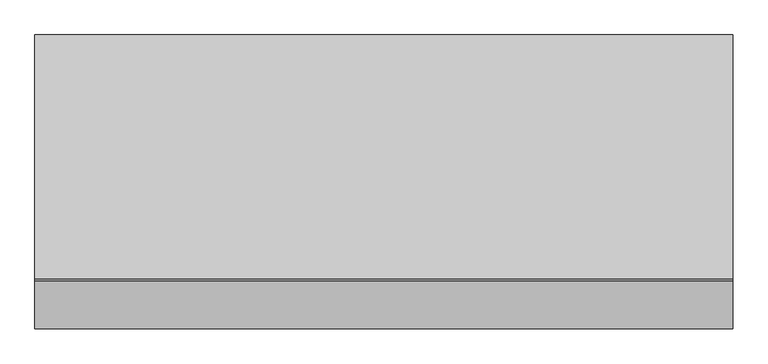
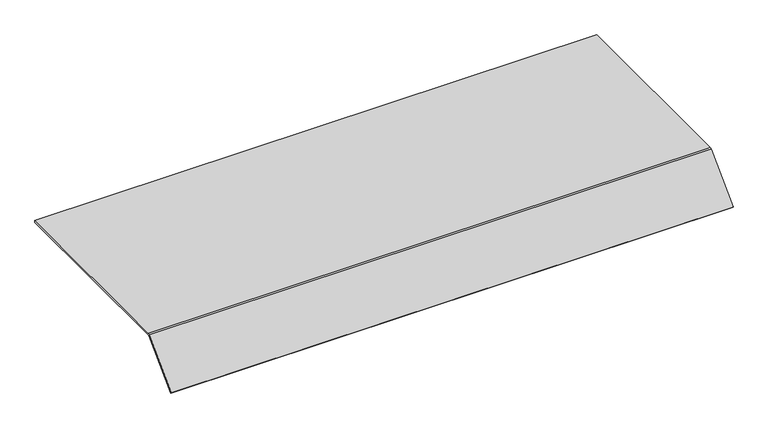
"""IFC4 building model written with IfcOpenShell, lengths in millimetres: proxy geometry, Electrical_Installation_Hager_Blank-Cover-800mm-Single-Sided-Height-70mm : Electrical_Installation_Hager_Blank-Cover-800mm-Single-Sided-Height-70mm."""

from ifc_helpers import new_model, si_unit, point, frame, frame_2d, origin, place, context, project, spatial, polyline, circle_curve, trimmed, segment, composite_curve, outline, extrude, source, transform, mapped, element, save


def electrical_fixtures_82f9d89b(model_context):
    return source(origin(), model_context, "Body", "SweptSolid", [
        extrude(outline(composite_curve([segment(polyline([(175.0, 40.5), (175.0, 37.5), (-174.8229541, 37.5)]), True, "CONTINUOUS"), segment(trimmed(circle_curve(frame_2d((-174.8229541, 36.0725733)), 1.4274267), [point((-174.8229541, 37.5))], [point((-175.8322972, 37.0819164))], True, "CARTESIAN"), True, "CONTINUOUS"), segment(polyline([(-175.8322972, 37.0819164), (-243.6627596, -30.7485461), (-245.78408, -28.6272257), (-177.8206472, 39.336207)]), True, "CONTINUOUS"), segment(trimmed(circle_curve(frame_2d((-175.0110025, 36.5265623)), 3.9734377), [point((-177.8206472, 39.336207))], [point((-175.0110025, 40.5))], False, "CARTESIAN"), True, "CONTINUOUS"), segment(polyline([(-175.0110025, 40.5), (175.0, 40.5)]), True, "CONTINUOUS")], self_intersect=False)), frame((0.0, 0.0, 0.0), z_axis=(1.0, 0.0, 0.0), x_axis=(0.0, 1.0, 0.0)), (0.0, 0.0, 1.0), 1000.0),
    ])


if __name__ == "__main__":
    model = new_model("IFC4")
    model_context = context("Model", 3, world=origin())
    ifc_project = project(units=[si_unit("LENGTHUNIT", "METRE", prefix="MILLI")], contexts=[model_context])
    site = spatial("IfcSite", under=ifc_project)
    building = spatial("IfcBuilding", under=site)
    placement = place(None, origin())
    electrical_fixtures_shape = electrical_fixtures_82f9d89b(model_context)
    element("IfcBuildingElementProxy", 1, Name="Electrical_Installation_Hager_Blank-Cover-800mm-Single-Sided-Height-70mm : Electrical_Installation_Hager_Blank-Cover-800mm-Single-Sided-Height-70mm", ObjectType="Electrical_Installation_Hager_Blank-Cover-800mm-Single-Sided-Height-70mm : Electrical_Installation_Hager_Blank-Cover-800mm-Single-Sided-Height-70mm", at=placement, inside=building, context=model_context, shape_type="MappedRepresentation", body=[
        mapped(electrical_fixtures_shape, transform((0.0, 0.0, 0.0), x_axis=(1.0, 0.0, 0.0), y_axis=(0.0, 1.0, 0.0), z_axis=(0.0, 0.0, 1.0))),
    ])
    save(model, "model.ifc")
